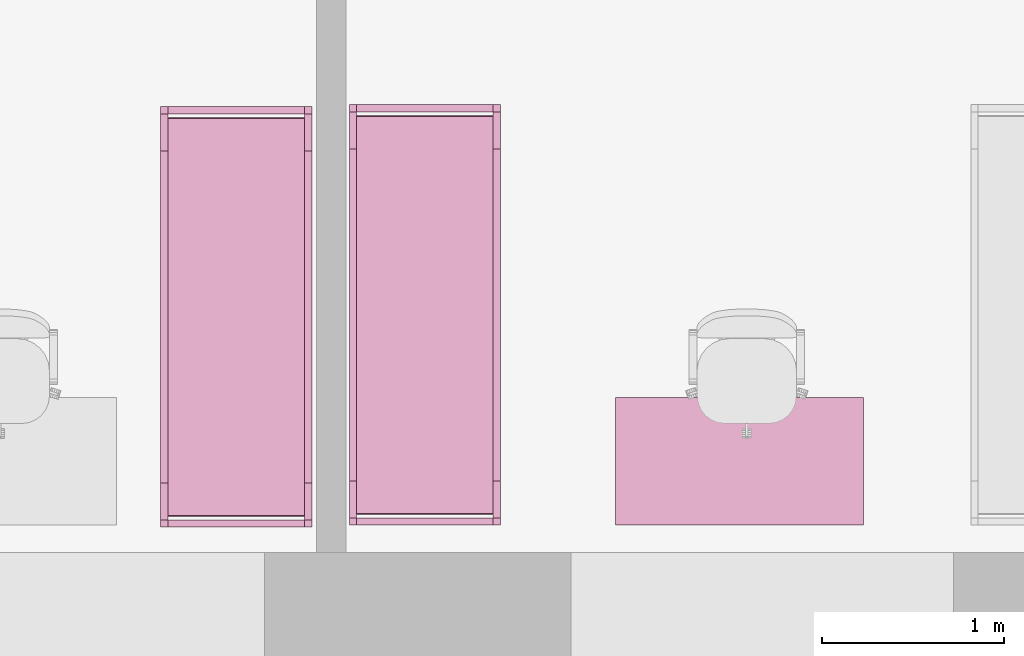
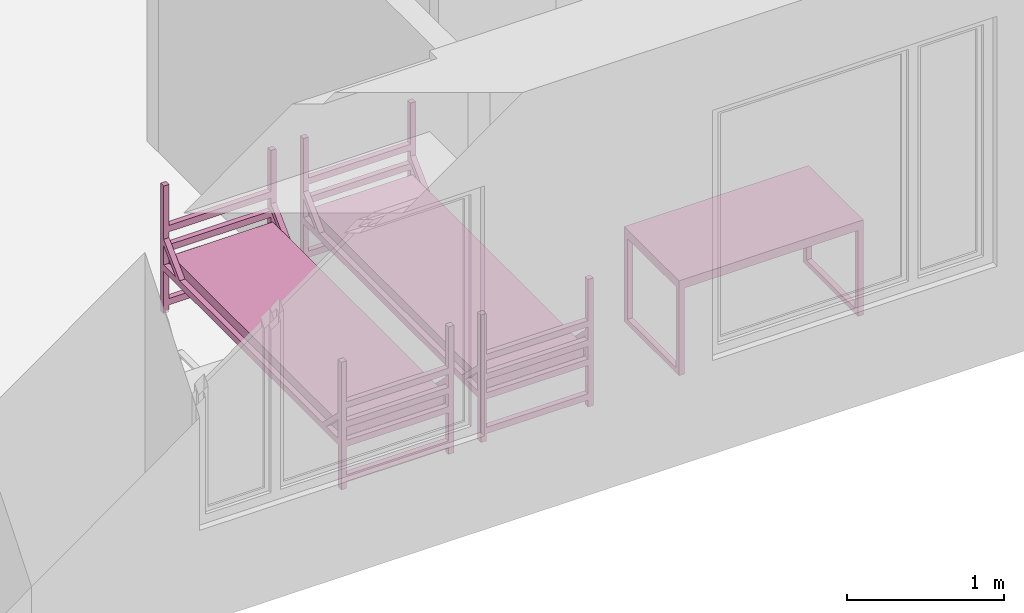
# One storey, part 22 of 48: 3 furnishings.
"""IFC2X3 building model written with IfcOpenShell, lengths in millimetres."""

from ifc_helpers import new_model, entity, si_unit, converted_unit, derived_unit, direction, frame, frame_2d, origin, origin_2d_with_axis, place, context, subcontext, project, spatial, polyline, circle_curve, parameter, trimmed, segment, composite_curve, rectangle, outline, extrude, faceted_brep, source, transform, mapped, material, material_list, type_object, type_shapes, element, save


model = new_model("IFC2X3")

# Units and contexts
model_context = context("Model", 3, precision=0.01, world=origin(), true_north=direction((6.12303176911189e-17, 1.0)))
body_context = subcontext(model_context, "Body", "Model", "MODEL_VIEW")
ifc_project = project(units=[si_unit("LENGTHUNIT", "METRE", prefix="MILLI"), si_unit("AREAUNIT", "SQUARE_METRE"), si_unit("VOLUMEUNIT", "CUBIC_METRE"), converted_unit("PLANEANGLEUNIT", "DEGREE", entity("IfcRatioMeasure", 0.0174532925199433), si_unit("PLANEANGLEUNIT", "RADIAN"), dimensions=[0, 0, 0, 0, 0, 0, 0]), si_unit("MASSUNIT", "GRAM", prefix="KILO"), derived_unit("MASSDENSITYUNIT", [(si_unit("MASSUNIT", "GRAM", prefix="KILO"), 1), (si_unit("LENGTHUNIT", "METRE"), -3)]), si_unit("TIMEUNIT", "SECOND"), si_unit("FREQUENCYUNIT", "HERTZ"), si_unit("THERMODYNAMICTEMPERATUREUNIT", "DEGREE_CELSIUS"), derived_unit("THERMALTRANSMITTANCEUNIT", [(si_unit("MASSUNIT", "GRAM", prefix="KILO"), 1), (si_unit("THERMODYNAMICTEMPERATUREUNIT", "KELVIN"), -1), (si_unit("TIMEUNIT", "SECOND"), -3)]), derived_unit("VOLUMETRICFLOWRATEUNIT", [(si_unit("LENGTHUNIT", "METRE"), 3), (si_unit("TIMEUNIT", "SECOND"), -1)]), si_unit("ELECTRICCURRENTUNIT", "AMPERE"), si_unit("ELECTRICVOLTAGEUNIT", "VOLT"), si_unit("POWERUNIT", "WATT"), si_unit("FORCEUNIT", "NEWTON", prefix="KILO"), si_unit("ILLUMINANCEUNIT", "LUX"), si_unit("LUMINOUSFLUXUNIT", "LUMEN"), si_unit("LUMINOUSINTENSITYUNIT", "CANDELA"), derived_unit("USERDEFINED", [(si_unit("MASSUNIT", "GRAM", prefix="KILO"), -1), (si_unit("LENGTHUNIT", "METRE"), -2), (si_unit("TIMEUNIT", "SECOND"), 3), (si_unit("LUMINOUSFLUXUNIT", "LUMEN"), 1)]), derived_unit("LINEARVELOCITYUNIT", [(si_unit("LENGTHUNIT", "METRE"), 1), (si_unit("TIMEUNIT", "SECOND"), -1)]), si_unit("PRESSUREUNIT", "PASCAL"), derived_unit("USERDEFINED", [(si_unit("LENGTHUNIT", "METRE"), -2), (si_unit("MASSUNIT", "GRAM", prefix="KILO"), 1), (si_unit("TIMEUNIT", "SECOND"), -2)]), derived_unit("LINEARFORCEUNIT", [(si_unit("MASSUNIT", "GRAM", prefix="KILO"), 1), (si_unit("LENGTHUNIT", "METRE"), 1), (si_unit("TIMEUNIT", "SECOND"), -2), (si_unit("LENGTHUNIT", "METRE"), -1)]), derived_unit("PLANARFORCEUNIT", [(si_unit("MASSUNIT", "GRAM", prefix="KILO"), 1), (si_unit("LENGTHUNIT", "METRE"), 1), (si_unit("TIMEUNIT", "SECOND"), -2), (si_unit("LENGTHUNIT", "METRE"), -2)])], contexts=[model_context])

# Site, building, storey, space
site_placement = place(None, origin())
site = spatial("IfcSite", under=ifc_project, at=site_placement, Name="Default", CompositionType="ELEMENT")
building_placement = place(site_placement, origin())
building = spatial("IfcBuilding", under=site, at=building_placement, Name="SMA ARH", CompositionType="ELEMENT")
storey_placement = place(building_placement, frame((0.0, 0.0, 6600.0)))
storey = spatial("IfcBuildingStorey", under=building, at=storey_placement, Name="3 Korrus", CompositionType="ELEMENT", Elevation=6599.99999999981)
space_1_placement = place(storey_placement, origin())
space_1 = spatial("IfcSpace", under=storey, at=space_1_placement, Name="3-15", CompositionType="ELEMENT", InteriorOrExteriorSpace="INTERNAL")

# Furnishing
ifc_material_1 = material(Name="Madrats")
furniture_type_1 = type_object("IfcFurnitureType", Name="Kasarmu voodi ühekordne 2308x830:Kasarmu voodi ühekordne 2308x830", material=ifc_material_1)
shared_shape_1 = source(origin(), body_context, "Body", "SweptSolid", [
    extrude(rectangle(XDim=39.9999999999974, YDim=750.000000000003, at=frame_2d((-1.35003119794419e-13, -2.8421709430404e-14), x_axis=(1.0, 0.0))), frame((1.68638457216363, -1226.7969571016, 55.0), z_axis=(0.0, 0.0, 1.0), x_axis=(0.0, -1.0, 0.0)), (0.0, 0.0, 1.0), 49.9999999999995),
    extrude(rectangle(XDim=39.9999999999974, YDim=750.000000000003, at=frame_2d((-1.35003119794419e-13, -2.8421709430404e-14), x_axis=(1.0, 0.0))), frame((1.68638457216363, -1226.7969571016, 325.0), z_axis=(0.0, 0.0, 1.0), x_axis=(0.0, -1.0, 0.0)), (0.0, 0.0, 1.0), 49.9999999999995),
    extrude(rectangle(XDim=39.9999999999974, YDim=750.000000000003, at=frame_2d((-1.35003119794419e-13, -2.8421709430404e-14), x_axis=(1.0, 0.0))), frame((1.68638457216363, -1226.7969571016, 475.0), z_axis=(0.0, 0.0, 1.0), x_axis=(0.0, -1.0, 0.0)), (0.0, 0.0, 1.0), 49.9999999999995),
    extrude(rectangle(XDim=39.9999999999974, YDim=750.000000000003, at=frame_2d((-1.35003119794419e-13, -2.8421709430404e-14), x_axis=(1.0, 0.0))), frame((1.68638457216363, -1226.7969571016, 625.0), z_axis=(0.0, 0.0, 1.0), x_axis=(0.0, -1.0, 0.0)), (0.0, 0.0, 1.0), 50.0000000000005),
    extrude(rectangle(XDim=39.9999999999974, YDim=750.000000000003, at=frame_2d((1.35003119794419e-13, -2.8421709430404e-14), x_axis=(1.0, 0.0))), frame((1.68638457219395, 1041.2030428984, 55.0), z_axis=(0.0, 0.0, 1.0), x_axis=(0.0, -1.0, 0.0)), (0.0, 0.0, 1.0), 50.0000000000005),
    extrude(rectangle(XDim=39.9999999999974, YDim=750.000000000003, at=frame_2d((1.35003119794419e-13, -2.8421709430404e-14), x_axis=(1.0, 0.0))), frame((1.68638457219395, 1041.2030428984, 325.0), z_axis=(0.0, 0.0, 1.0), x_axis=(0.0, -1.0, 0.0)), (0.0, 0.0, 1.0), 50.0000000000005),
    extrude(rectangle(XDim=39.9999999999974, YDim=750.000000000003, at=frame_2d((1.35003119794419e-13, -2.8421709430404e-14), x_axis=(1.0, 0.0))), frame((1.68638457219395, 1041.2030428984, 475.0), z_axis=(0.0, 0.0, 1.0), x_axis=(0.0, -1.0, 0.0)), (0.0, 0.0, 1.0), 50.0000000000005),
    extrude(rectangle(XDim=39.9999999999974, YDim=750.000000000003, at=frame_2d((1.35003119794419e-13, -2.8421709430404e-14), x_axis=(1.0, 0.0))), frame((1.68638457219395, 1041.2030428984, 625.0), z_axis=(0.0, 0.0, 1.0), x_axis=(0.0, -1.0, 0.0)), (0.0, 0.0, 1.0), 49.9999999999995),
    extrude(outline(composite_curve([segment(trimmed(circle_curve(frame_2d((1085.0, -40.0), x_axis=(1.0, 0.0)), 10.0), [parameter(270.0)], [parameter(0.0)], True, "PARAMETER"), True, "CONTINUOUS"), segment(polyline([(1095.0, -40.0), (1095.0, 40.0)]), True, "CONTINUOUS"), segment(trimmed(circle_curve(frame_2d((1085.0, 40.0), x_axis=(1.0, 0.0)), 10.0), [parameter(0.0)], [parameter(90.0000000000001)], True, "PARAMETER"), True, "CONTINUOUS"), segment(polyline([(1085.0, 50.0), (-1085.0, 50.0)]), True, "CONTINUOUS"), segment(trimmed(circle_curve(frame_2d((-1085.0, 40.0), x_axis=(1.0, 0.0)), 10.0), [parameter(90.0000000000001)], [parameter(180.0)], True, "PARAMETER"), True, "CONTINUOUS"), segment(polyline([(-1095.0, 40.0), (-1095.0, -40.0)]), True, "CONTINUOUS"), segment(trimmed(circle_curve(frame_2d((-1085.0, -40.0), x_axis=(1.0, 0.0)), 10.0), [parameter(180.0)], [parameter(270.0)], True, "PARAMETER"), True, "CONTINUOUS"), segment(polyline([(-1085.0, -50.0), (1085.0, -50.0)]), True, "CONTINUOUS")], self_intersect=False)), frame((-373.313615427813, -92.7969571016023, 405.0), z_axis=(1.0, 0.0, 0.0), x_axis=(0.0, -1.0, 0.0)), (0.0, 0.0, 1.0), 750.000000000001),
    extrude(outline(polyline([(-1114.0, -100.0), (1114.0, -100.0), (1114.0, -50.0), (961.59199141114, -50.0), (1114.0, 100.0), (1114.0, 150.0), (910.789321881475, -50.0), (-910.789321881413, -50.0), (-1114.0, 150.0), (-1114.0, 100.0), (-961.591991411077, -50.0), (-1114.0, -50.0), (-1114.0, -100.0)])), frame((-413.313615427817, -92.7969571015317, 430.0), z_axis=(1.0, 0.0, 0.0), x_axis=(0.0, 1.0, 0.0)), (0.0, 0.0, 1.0), 39.9999999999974),
    extrude(outline(polyline([(-1114.0, -100.0), (1114.0, -100.0), (1114.0, -50.0), (961.591991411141, -50.0), (1114.0, 100.0), (1114.0, 150.0), (910.789321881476, -50.0), (-910.789321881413, -50.0), (-1114.0, 150.0), (-1114.0, 100.0), (-961.591991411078, -50.0), (-1114.0, -50.0), (-1114.0, -100.0)])), frame((376.686384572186, -92.796957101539, 430.0), z_axis=(1.0, 0.0, 0.0), x_axis=(0.0, 1.0, 0.0)), (0.0, 0.0, 1.0), 39.9999999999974),
    extrude(rectangle(XDim=39.9999999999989, YDim=39.9999999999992, at=frame_2d((-6.75015598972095e-14, 0.0), x_axis=(1.0, 0.0))), frame((396.686384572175, -1226.79695710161, 0.0), z_axis=(0.0, 0.0, 1.0), x_axis=(0.0, 1.0, 0.0)), (0.0, 0.0, 1.0), 995.0),
    extrude(rectangle(XDim=39.9999999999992, YDim=39.9999999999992, at=frame_2d((-1.35003119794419e-13, 0.0), x_axis=(1.0, 0.0))), frame((396.686384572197, 1041.20304289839, 0.0), z_axis=(0.0, 0.0, 1.0), x_axis=(0.0, 1.0, 0.0)), (0.0, 0.0, 1.0), 995.0),
    extrude(rectangle(XDim=40.0000000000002, YDim=39.9999999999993, at=frame_2d((-1.35003119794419e-13, 0.0), x_axis=(1.0, 0.0))), frame((-393.313615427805, 1041.2030428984, 0.0), z_axis=(0.0, 0.0, 1.0), x_axis=(0.0, 1.0, 0.0)), (0.0, 0.0, 1.0), 995.0),
    extrude(rectangle(XDim=39.9999999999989, YDim=39.9999999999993, at=frame_2d((-6.75015598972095e-14, 0.0), x_axis=(1.0, 0.0))), frame((-393.313615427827, -1226.7969571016, 0.0), z_axis=(0.0, 0.0, 1.0), x_axis=(0.0, 1.0, 0.0)), (0.0, 0.0, 1.0), 995.0),
])
type_shapes(furniture_type_1, [shared_shape_1])
furnishing_1_placement = place(space_1_placement, frame((3185.0, 1200.0, 0.0), z_axis=(0.0, 0.0, 1.0), x_axis=(-1.0, 0.0, 0.0)))
element("IfcFurnishingElement", 1, at=furnishing_1_placement, inside=space_1, type_object=furniture_type_1, material=ifc_material_1, Name="Kasarmu voodi ühekordne 2308x830:Kasarmu voodi ühekordne 2308x830", ObjectType="Kasarmu voodi ühekordne 2308x830:Kasarmu voodi ühekordne 2308x830", context=body_context, shape_type="MappedRepresentation", body=[
    mapped(shared_shape_1, transform((0.0, 0.0, 0.0), scale=1.0)),
])

# Space
space_2_placement = place(storey_placement, origin())
space_2 = spatial("IfcSpace", under=storey, at=space_2_placement, Name="3-14", CompositionType="ELEMENT", InteriorOrExteriorSpace="INTERNAL")

# Furnishings
ifc_material_2 = material(Name="<Unnamed>")
ifc_material_list = material_list([ifc_material_2, ifc_material_2])
furniture_type_2 = type_object("IfcFurnitureType", Name="kirjutuslaud 1360x700mm:kirjutuslaud 1360x700mm", material=ifc_material_list)
shared_shape_2 = source(origin(), body_context, "Body", "Brep", [
    faceted_brep([(680.0, -350.0, 720.0), (680.0, 350.0, 720.0), (680.0, 350.0, 750.0), (680.0, -350.0, 750.0), (-680.0, -350.0, 720.0), (-680.0, -350.0, 750.0), (-680.0, 350.0, 750.0), (-680.0, 350.0, 720.0)], [[[0, 1, 2, 3]], [[4, 5, 6, 7]], [[1, 0, 4, 7]], [[2, 1, 7, 6]], [[3, 2, 6, 5]], [[0, 3, 5, 4]]]),
    faceted_brep([(-640.0, -310.0, 680.0), (-640.0, 310.0, 680.0), (-640.0, 310.0, 720.0), (-640.0, -310.0, 720.0), (-680.0, -350.0, 720.0), (-680.0, 350.0, 720.0), (-680.0, 350.0, 10.0), (-680.0, -350.0, 10.0), (-680.0, 310.0, 680.0), (-680.0, -310.0, 680.0), (-680.0, -310.0, 50.0), (-680.0, 310.0, 50.0), (-640.0, -350.0, 10.0), (-640.0, -350.0, 680.0), (640.0, -350.0, 680.0), (640.0, -350.0, 10.0), (680.0, -350.0, 10.0), (680.0, -350.0, 720.0), (-640.0, 350.0, 10.0), (680.0, 350.0, 720.0), (680.0, 350.0, 10.0), (640.0, 350.0, 10.0), (640.0, 350.0, 680.0), (-640.0, 350.0, 680.0), (640.0, 310.0, 720.0), (640.0, -310.0, 720.0), (-640.0, 310.0, 50.0), (-640.0, -310.0, 50.0), (640.0, -310.0, 680.0), (640.0, 310.0, 680.0), (680.0, 310.0, 680.0), (680.0, 310.0, 50.0), (680.0, -310.0, 50.0), (680.0, -310.0, 680.0), (640.0, -310.0, 50.0), (640.0, 310.0, 50.0)], [[[0, 1, 2, 3]], [[4, 5, 6, 7], [8, 9, 10, 11]], [[4, 7, 12, 13, 14, 15, 16, 17]], [[18, 12, 7, 6]], [[6, 5, 19, 20, 21, 22, 23, 18]], [[19, 5, 4, 17], [2, 24, 25, 3]], [[26, 1, 8, 11]], [[27, 26, 11, 10]], [[0, 27, 10, 9]], [[1, 0, 9, 8]], [[14, 13, 0, 28]], [[24, 2, 1, 29]], [[3, 25, 28, 0]], [[17, 16, 20, 19], [30, 31, 32, 33]], [[21, 15, 14, 28, 34, 35, 29, 22]], [[20, 16, 15, 21]], [[31, 30, 29, 35]], [[32, 31, 35, 34]], [[33, 32, 34, 28]], [[30, 33, 28, 29]], [[29, 28, 25, 24]], [[29, 1, 23, 22]], [[12, 18, 23, 1, 26, 27, 0, 13]]]),
    faceted_brep([(-663.729456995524, -270.466136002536, 0.0), (-659.847171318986, -269.955023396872, 0.0), (-655.964885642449, -270.466136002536, 0.0), (-652.347171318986, -271.964642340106, 0.0), (-649.240569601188, -274.348421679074, 0.0), (-646.85679026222, -277.455023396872, 0.0), (-645.35828392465, -281.072737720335, 0.0), (-644.847171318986, -284.955023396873, 0.0), (-645.35828392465, -288.83730907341, 0.0), (-646.85679026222, -292.455023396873, 0.0), (-649.240569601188, -295.561625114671, 0.0), (-652.347171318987, -297.945404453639, 0.0), (-655.964885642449, -299.443910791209, 0.0), (-659.847171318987, -299.955023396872, 0.0), (-663.729456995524, -299.443910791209, 0.0), (-667.347171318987, -297.945404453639, 0.0), (-670.453773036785, -295.561625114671, 0.0), (-672.837552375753, -292.455023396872, 0.0), (-674.336058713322, -288.83730907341, 0.0), (-674.847171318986, -284.955023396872, 0.0), (-674.336058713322, -281.072737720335, 0.0), (-672.837552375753, -277.455023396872, 0.0), (-670.453773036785, -274.348421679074, 0.0), (-667.347171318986, -271.964642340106, 0.0), (-655.964885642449, -299.443910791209, 10.0), (-652.347171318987, -297.945404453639, 10.0), (-649.240569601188, -295.561625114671, 10.0), (-646.85679026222, -292.455023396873, 10.0), (-645.35828392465, -288.83730907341, 10.0), (-644.847171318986, -284.955023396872, 10.0), (-645.35828392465, -281.072737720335, 10.0), (-646.85679026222, -277.455023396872, 10.0), (-649.240569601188, -274.348421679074, 10.0), (-652.347171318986, -271.964642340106, 10.0), (-655.964885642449, -270.466136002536, 10.0), (-659.847171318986, -269.955023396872, 10.0), (-663.729456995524, -270.466136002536, 10.0), (-667.347171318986, -271.964642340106, 10.0), (-670.453773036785, -274.348421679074, 10.0), (-672.837552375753, -277.455023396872, 10.0), (-674.336058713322, -281.072737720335, 10.0), (-674.847171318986, -284.955023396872, 10.0), (-674.336058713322, -288.83730907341, 10.0), (-672.837552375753, -292.455023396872, 10.0), (-670.453773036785, -295.561625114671, 10.0), (-667.347171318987, -297.945404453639, 10.0), (-663.729456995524, -299.443910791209, 10.0), (-659.847171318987, -299.955023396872, 10.0)], [[[0, 1, 2, 3, 4, 5, 6, 7, 8, 9, 10, 11, 12, 13, 14, 15, 16, 17, 18, 19, 20, 21, 22, 23]], [[24, 25, 26, 27, 28, 29, 30, 31, 32, 33, 34, 35, 36, 37, 38, 39, 40, 41, 42, 43, 44, 45, 46, 47]], [[18, 42, 41, 19]], [[17, 43, 42, 18]], [[45, 44, 16, 15]], [[17, 16, 44, 43]], [[46, 45, 15, 14]], [[47, 46, 14, 13]], [[12, 24, 47, 13]], [[11, 25, 24, 12]], [[27, 26, 10, 9]], [[11, 10, 26, 25]], [[28, 27, 9, 8]], [[29, 28, 8, 7]], [[6, 30, 29, 7]], [[5, 31, 30, 6]], [[33, 32, 4, 3]], [[5, 4, 32, 31]], [[34, 33, 3, 2]], [[35, 34, 2, 1]], [[0, 36, 35, 1]], [[23, 37, 36, 0]], [[39, 38, 22, 21]], [[23, 22, 38, 37]], [[40, 39, 21, 20]], [[41, 40, 20, 19]]]),
    faceted_brep([(-655.964885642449, 270.466136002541, 10.0), (-652.347171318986, 271.964642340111, 10.0), (-649.240569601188, 274.348421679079, 10.0), (-646.85679026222, 277.455023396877, 10.0), (-645.35828392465, 281.07273772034, 10.0), (-644.847171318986, 284.955023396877, 10.0), (-645.35828392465, 288.837309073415, 10.0), (-646.85679026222, 292.455023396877, 10.0), (-649.240569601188, 295.561625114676, 10.0), (-652.347171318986, 297.945404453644, 10.0), (-655.964885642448, 299.443910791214, 10.0), (-659.847171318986, 299.955023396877, 10.0), (-663.729456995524, 299.443910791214, 10.0), (-667.347171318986, 297.945404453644, 10.0), (-670.453773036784, 295.561625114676, 10.0), (-672.837552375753, 292.455023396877, 10.0), (-674.336058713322, 288.837309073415, 10.0), (-674.847171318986, 284.955023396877, 10.0), (-674.336058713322, 281.07273772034, 10.0), (-672.837552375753, 277.455023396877, 10.0), (-670.453773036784, 274.348421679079, 10.0), (-667.347171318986, 271.964642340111, 10.0), (-663.729456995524, 270.466136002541, 10.0), (-659.847171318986, 269.955023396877, 10.0), (-655.964885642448, 299.443910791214, 0.0), (-652.347171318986, 297.945404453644, 0.0), (-649.240569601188, 295.561625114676, 0.0), (-646.85679026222, 292.455023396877, 0.0), (-645.35828392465, 288.837309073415, 0.0), (-644.847171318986, 284.955023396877, 0.0), (-645.35828392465, 281.07273772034, 0.0), (-646.85679026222, 277.455023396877, 0.0), (-649.240569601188, 274.348421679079, 0.0), (-652.347171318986, 271.964642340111, 0.0), (-655.964885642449, 270.466136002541, 0.0), (-659.847171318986, 269.955023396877, 0.0), (-663.729456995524, 270.466136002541, 0.0), (-667.347171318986, 271.964642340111, 0.0), (-670.453773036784, 274.348421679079, 0.0), (-672.837552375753, 277.455023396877, 0.0), (-674.336058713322, 281.07273772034, 0.0), (-674.847171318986, 284.955023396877, 0.0), (-674.336058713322, 288.837309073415, 0.0), (-672.837552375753, 292.455023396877, 0.0), (-670.453773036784, 295.561625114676, 0.0), (-667.347171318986, 297.945404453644, 0.0), (-663.729456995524, 299.443910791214, 0.0), (-659.847171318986, 299.955023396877, 0.0)], [[[0, 1, 2, 3, 4, 5, 6, 7, 8, 9, 10, 11, 12, 13, 14, 15, 16, 17, 18, 19, 20, 21, 22, 23]], [[24, 25, 26, 27, 28, 29, 30, 31, 32, 33, 34, 35, 36, 37, 38, 39, 40, 41, 42, 43, 44, 45, 46, 47]], [[40, 18, 17, 41]], [[39, 19, 18, 40]], [[21, 20, 38, 37]], [[39, 38, 20, 19]], [[22, 21, 37, 36]], [[23, 22, 36, 35]], [[34, 0, 23, 35]], [[33, 1, 0, 34]], [[3, 2, 32, 31]], [[33, 32, 2, 1]], [[4, 3, 31, 30]], [[5, 4, 30, 29]], [[28, 6, 5, 29]], [[27, 7, 6, 28]], [[9, 8, 26, 25]], [[27, 26, 8, 7]], [[10, 9, 25, 24]], [[11, 10, 24, 47]], [[46, 12, 11, 47]], [[45, 13, 12, 46]], [[15, 14, 44, 43]], [[45, 44, 14, 13]], [[16, 15, 43, 42]], [[17, 16, 42, 41]]]),
    faceted_brep([(656.270543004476, -270.466136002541, 0.0), (660.152828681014, -269.955023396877, 0.0), (664.035114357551, -270.466136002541, 0.0), (667.652828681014, -271.96464234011, 0.0), (670.759430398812, -274.348421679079, 0.0), (673.14320973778, -277.455023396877, 0.0), (674.64171607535, -281.072737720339, 0.0), (675.152828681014, -284.955023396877, 0.0), (674.64171607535, -288.837309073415, 0.0), (673.14320973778, -292.455023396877, 0.0), (670.759430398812, -295.561625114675, 0.0), (667.652828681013, -297.945404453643, 0.0), (664.035114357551, -299.443910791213, 0.0), (660.152828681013, -299.955023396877, 0.0), (656.270543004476, -299.443910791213, 0.0), (652.652828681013, -297.945404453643, 0.0), (649.546226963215, -295.561625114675, 0.0), (647.162447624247, -292.455023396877, 0.0), (645.663941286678, -288.837309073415, 0.0), (645.152828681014, -284.955023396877, 0.0), (645.663941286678, -281.072737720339, 0.0), (647.162447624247, -277.455023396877, 0.0), (649.546226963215, -274.348421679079, 0.0), (652.652828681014, -271.96464234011, 0.0), (664.035114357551, -299.443910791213, 10.0), (667.652828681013, -297.945404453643, 10.0), (670.759430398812, -295.561625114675, 10.0), (673.14320973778, -292.455023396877, 10.0), (674.64171607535, -288.837309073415, 10.0), (675.152828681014, -284.955023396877, 10.0), (674.64171607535, -281.072737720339, 10.0), (673.14320973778, -277.455023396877, 10.0), (670.759430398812, -274.348421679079, 10.0), (667.652828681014, -271.96464234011, 10.0), (664.035114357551, -270.466136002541, 10.0), (660.152828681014, -269.955023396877, 10.0), (656.270543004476, -270.466136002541, 10.0), (652.652828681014, -271.96464234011, 10.0), (649.546226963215, -274.348421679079, 10.0), (647.162447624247, -277.455023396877, 10.0), (645.663941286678, -281.072737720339, 10.0), (645.152828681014, -284.955023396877, 10.0), (645.663941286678, -288.837309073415, 10.0), (647.162447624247, -292.455023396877, 10.0), (649.546226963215, -295.561625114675, 10.0), (652.652828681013, -297.945404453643, 10.0), (656.270543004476, -299.443910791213, 10.0), (660.152828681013, -299.955023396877, 10.0)], [[[0, 1, 2, 3, 4, 5, 6, 7, 8, 9, 10, 11, 12, 13, 14, 15, 16, 17, 18, 19, 20, 21, 22, 23]], [[24, 25, 26, 27, 28, 29, 30, 31, 32, 33, 34, 35, 36, 37, 38, 39, 40, 41, 42, 43, 44, 45, 46, 47]], [[18, 42, 41, 19]], [[17, 43, 42, 18]], [[45, 44, 16, 15]], [[17, 16, 44, 43]], [[46, 45, 15, 14]], [[47, 46, 14, 13]], [[12, 24, 47, 13]], [[11, 25, 24, 12]], [[27, 26, 10, 9]], [[11, 10, 26, 25]], [[28, 27, 9, 8]], [[29, 28, 8, 7]], [[6, 30, 29, 7]], [[5, 31, 30, 6]], [[33, 32, 4, 3]], [[5, 4, 32, 31]], [[34, 33, 3, 2]], [[35, 34, 2, 1]], [[0, 36, 35, 1]], [[23, 37, 36, 0]], [[39, 38, 22, 21]], [[23, 22, 38, 37]], [[40, 39, 21, 20]], [[41, 40, 20, 19]]]),
    faceted_brep([(664.035114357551, 270.466136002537, 10.0), (667.652828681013, 271.964642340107, 10.0), (670.759430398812, 274.348421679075, 10.0), (673.14320973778, 277.455023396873, 10.0), (674.64171607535, 281.072737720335, 10.0), (675.152828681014, 284.955023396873, 10.0), (674.64171607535, 288.837309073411, 10.0), (673.14320973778, 292.455023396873, 10.0), (670.759430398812, 295.561625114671, 10.0), (667.652828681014, 297.94540445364, 10.0), (664.035114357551, 299.443910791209, 10.0), (660.152828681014, 299.955023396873, 10.0), (656.270543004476, 299.443910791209, 10.0), (652.652828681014, 297.94540445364, 10.0), (649.546226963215, 295.561625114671, 10.0), (647.162447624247, 292.455023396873, 10.0), (645.663941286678, 288.837309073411, 10.0), (645.152828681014, 284.955023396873, 10.0), (645.663941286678, 281.072737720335, 10.0), (647.162447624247, 277.455023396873, 10.0), (649.546226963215, 274.348421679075, 10.0), (652.652828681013, 271.964642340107, 10.0), (656.270543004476, 270.466136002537, 10.0), (660.152828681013, 269.955023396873, 10.0), (664.035114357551, 299.443910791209, 0.0), (667.652828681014, 297.94540445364, 0.0), (670.759430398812, 295.561625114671, 0.0), (673.14320973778, 292.455023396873, 0.0), (674.64171607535, 288.837309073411, 0.0), (675.152828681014, 284.955023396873, 0.0), (674.64171607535, 281.072737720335, 0.0), (673.14320973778, 277.455023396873, 0.0), (670.759430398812, 274.348421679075, 0.0), (667.652828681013, 271.964642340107, 0.0), (664.035114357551, 270.466136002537, 0.0), (660.152828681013, 269.955023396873, 0.0), (656.270543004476, 270.466136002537, 0.0), (652.652828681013, 271.964642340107, 0.0), (649.546226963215, 274.348421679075, 0.0), (647.162447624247, 277.455023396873, 0.0), (645.663941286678, 281.072737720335, 0.0), (645.152828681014, 284.955023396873, 0.0), (645.663941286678, 288.837309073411, 0.0), (647.162447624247, 292.455023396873, 0.0), (649.546226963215, 295.561625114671, 0.0), (652.652828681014, 297.94540445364, 0.0), (656.270543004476, 299.443910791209, 0.0), (660.152828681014, 299.955023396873, 0.0)], [[[0, 1, 2, 3, 4, 5, 6, 7, 8, 9, 10, 11, 12, 13, 14, 15, 16, 17, 18, 19, 20, 21, 22, 23]], [[24, 25, 26, 27, 28, 29, 30, 31, 32, 33, 34, 35, 36, 37, 38, 39, 40, 41, 42, 43, 44, 45, 46, 47]], [[40, 18, 17, 41]], [[39, 19, 18, 40]], [[21, 20, 38, 37]], [[39, 38, 20, 19]], [[22, 21, 37, 36]], [[23, 22, 36, 35]], [[34, 0, 23, 35]], [[33, 1, 0, 34]], [[3, 2, 32, 31]], [[33, 32, 2, 1]], [[4, 3, 31, 30]], [[5, 4, 30, 29]], [[28, 6, 5, 29]], [[27, 7, 6, 28]], [[9, 8, 26, 25]], [[27, 26, 8, 7]], [[10, 9, 25, 24]], [[11, 10, 24, 47]], [[46, 12, 11, 47]], [[45, 13, 12, 46]], [[15, 14, 44, 43]], [[45, 44, 14, 13]], [[16, 15, 43, 42]], [[17, 16, 42, 41]]]),
])
type_shapes(furniture_type_2, [shared_shape_2])
furnishing_2_placement = place(space_2_placement, frame((5945.50000000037, 500.0, 0.0)))
element("IfcFurnishingElement", 2, at=furnishing_2_placement, inside=space_2, type_object=furniture_type_2, Name="kirjutuslaud 1360x700mm:kirjutuslaud 1360x700mm", ObjectType="kirjutuslaud 1360x700mm:kirjutuslaud 1360x700mm", context=body_context, shape_type="MappedRepresentation", body=[
    mapped(shared_shape_2, transform((0.0, 0.0, 0.0), scale=1.0)),
])
furniture_type_3 = type_object("IfcFurnitureType", Name="Kasarmu voodi ühekordne 2308x830:Kasarmu voodi ühekordne 2308x830", material=ifc_material_1)
shared_shape_3 = source(origin(), body_context, "Body", "SweptSolid", [
    extrude(rectangle(XDim=750.000000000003, YDim=39.9999999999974, at=frame_2d((0.0, 1.35003119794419e-13), x_axis=(1.0, 0.0))), frame((1.68638457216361, 1226.7969571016, 55.0)), (0.0, 0.0, 1.0), 49.9999999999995),
    extrude(rectangle(XDim=750.000000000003, YDim=39.9999999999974, at=frame_2d((0.0, 1.35003119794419e-13), x_axis=(1.0, 0.0))), frame((1.68638457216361, 1226.7969571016, 325.0)), (0.0, 0.0, 1.0), 49.9999999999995),
    extrude(rectangle(XDim=750.000000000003, YDim=39.9999999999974, at=frame_2d((0.0, 1.35003119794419e-13), x_axis=(1.0, 0.0))), frame((1.68638457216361, 1226.7969571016, 475.0)), (0.0, 0.0, 1.0), 49.9999999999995),
    extrude(rectangle(XDim=750.000000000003, YDim=39.9999999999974, at=frame_2d((0.0, 1.35003119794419e-13), x_axis=(1.0, 0.0))), frame((1.68638457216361, 1226.7969571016, 625.0)), (0.0, 0.0, 1.0), 50.0000000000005),
    extrude(rectangle(XDim=750.000000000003, YDim=39.9999999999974, at=origin_2d_with_axis()), frame((1.68638457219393, -1041.2030428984, 55.0)), (0.0, 0.0, 1.0), 50.0000000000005),
    extrude(rectangle(XDim=750.000000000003, YDim=39.9999999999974, at=origin_2d_with_axis()), frame((1.68638457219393, -1041.2030428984, 325.0)), (0.0, 0.0, 1.0), 50.0000000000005),
    extrude(rectangle(XDim=750.000000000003, YDim=39.9999999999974, at=origin_2d_with_axis()), frame((1.68638457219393, -1041.2030428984, 475.0)), (0.0, 0.0, 1.0), 50.0000000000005),
    extrude(rectangle(XDim=750.000000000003, YDim=39.9999999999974, at=origin_2d_with_axis()), frame((1.68638457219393, -1041.2030428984, 625.0)), (0.0, 0.0, 1.0), 49.9999999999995),
    extrude(outline(composite_curve([segment(polyline([(-1085.0, -50.0), (1085.0, -50.0)]), True, "CONTINUOUS"), segment(trimmed(circle_curve(frame_2d((1085.0, -40.0), x_axis=(-1.0, 0.0)), 10.0), [parameter(90.0000000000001)], [parameter(180.0)], True, "PARAMETER"), True, "CONTINUOUS"), segment(polyline([(1095.0, -40.0), (1095.0, 40.0)]), True, "CONTINUOUS"), segment(trimmed(circle_curve(frame_2d((1085.0, 40.0), x_axis=(-1.0, 0.0)), 10.0), [parameter(180.0)], [parameter(270.0)], True, "PARAMETER"), True, "CONTINUOUS"), segment(polyline([(1085.0, 50.0), (-1085.0, 50.0)]), True, "CONTINUOUS"), segment(trimmed(circle_curve(frame_2d((-1085.0, 40.0), x_axis=(-1.0, 0.0)), 10.0), [parameter(270.0)], [parameter(0.0)], True, "PARAMETER"), True, "CONTINUOUS"), segment(polyline([(-1095.0, 40.0), (-1095.0, -40.0)]), True, "CONTINUOUS"), segment(trimmed(circle_curve(frame_2d((-1085.0, -40.0), x_axis=(-1.0, 0.0)), 10.0), [parameter(0.0)], [parameter(90.0000000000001)], True, "PARAMETER"), True, "CONTINUOUS")], self_intersect=False)), frame((-373.313615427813, 92.7969571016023, 405.0), z_axis=(1.0, 0.0, 0.0), x_axis=(0.0, -1.0, 0.0)), (0.0, 0.0, 1.0), 750.000000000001),
    extrude(outline(polyline([(-100.0, -1114.0), (-50.0, -1114.0), (-50.0, -961.591991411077), (100.0, -1114.0), (150.0, -1114.0), (-50.0, -910.789321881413), (-50.0, 910.789321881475), (150.0, 1114.0), (100.0, 1114.0), (-50.0, 961.591991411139), (-50.0, 1114.0), (-100.0, 1114.0), (-100.0, -1114.0)])), frame((-413.313615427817, 92.7969571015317, 430.0), z_axis=(1.0, 0.0, 0.0), x_axis=(0.0, 0.0, 1.0)), (0.0, 0.0, 1.0), 39.9999999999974),
    extrude(outline(polyline([(-100.0, -1114.0), (-50.0, -1114.0), (-50.0, -961.591991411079), (100.0, -1114.0), (150.0, -1114.0), (-50.0, -910.789321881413), (-50.0, 910.789321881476), (150.0, 1114.0), (100.0, 1114.0), (-50.0, 961.591991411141), (-50.0, 1114.0), (-100.0, 1114.0), (-100.0, -1114.0)])), frame((376.686384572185, 92.796957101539, 430.0), z_axis=(1.0, 0.0, 0.0), x_axis=(0.0, 0.0, 1.0)), (0.0, 0.0, 1.0), 39.9999999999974),
    extrude(rectangle(XDim=39.9999999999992, YDim=39.9999999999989, at=frame_2d((0.0, -6.75015598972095e-14), x_axis=(1.0, 0.0))), frame((396.686384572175, 1226.79695710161, 0.0), z_axis=(0.0, 0.0, 1.0), x_axis=(-1.0, 0.0, 0.0)), (0.0, 0.0, 1.0), 995.0),
    extrude(rectangle(XDim=39.9999999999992, YDim=39.9999999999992, at=origin_2d_with_axis()), frame((396.686384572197, -1041.20304289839, 0.0), z_axis=(0.0, 0.0, 1.0), x_axis=(-1.0, 0.0, 0.0)), (0.0, 0.0, 1.0), 995.0),
    extrude(rectangle(XDim=39.9999999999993, YDim=40.0000000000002, at=origin_2d_with_axis()), frame((-393.313615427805, -1041.2030428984, 0.0), z_axis=(0.0, 0.0, 1.0), x_axis=(-1.0, 0.0, 0.0)), (0.0, 0.0, 1.0), 995.0),
    extrude(rectangle(XDim=39.9999999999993, YDim=39.9999999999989, at=frame_2d((0.0, -6.75015598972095e-14), x_axis=(1.0, 0.0))), frame((-393.313615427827, 1226.7969571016, 0.0), z_axis=(0.0, 0.0, 1.0), x_axis=(-1.0, 0.0, 0.0)), (0.0, 0.0, 1.0), 995.0),
])
type_shapes(furniture_type_3, [shared_shape_3])
furnishing_3_placement = place(space_2_placement, frame((4220.68638457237, 1396.79695710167, 0.0), z_axis=(0.0, 0.0, 1.0), x_axis=(-1.0, 0.0, 0.0)))
element("IfcFurnishingElement", 3, at=furnishing_3_placement, inside=space_2, type_object=furniture_type_3, material=ifc_material_1, Name="Kasarmu voodi ühekordne 2308x830:Kasarmu voodi ühekordne 2308x830", ObjectType="Kasarmu voodi ühekordne 2308x830:Kasarmu voodi ühekordne 2308x830", context=body_context, shape_type="MappedRepresentation", body=[
    mapped(shared_shape_3, transform((0.0, 0.0, 0.0), scale=1.0)),
])

save(model, "model.ifc")
